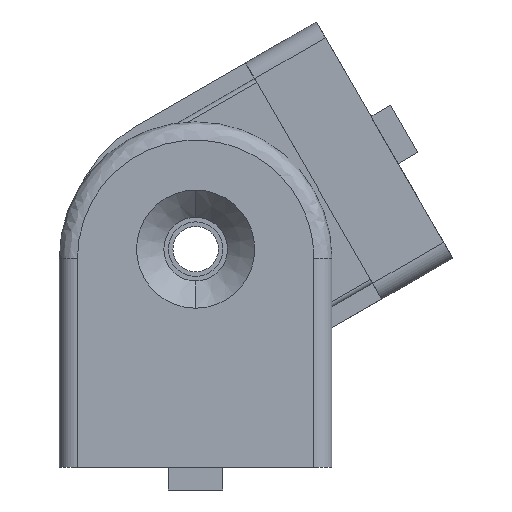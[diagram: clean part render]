
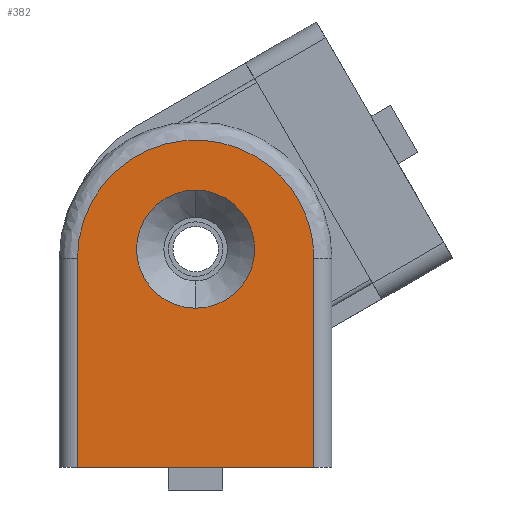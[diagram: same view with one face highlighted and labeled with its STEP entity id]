
A CAD part, left-side view. The second image highlights one B-rep face of the part: STEP entity #382.
In plain terms, the highlighted planar face has unit normal (-1, 0, 0).
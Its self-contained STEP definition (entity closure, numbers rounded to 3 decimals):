
#97 = EDGE_CURVE ( 'NONE', #2547, #2420, #666, .T. ) ;
#98 = EDGE_CURVE ( 'NONE', #579, #2553, #661, .T. ) ;
#99 = EDGE_CURVE ( 'NONE', #2553, #492, #1532, .T. ) ;
#100 = EDGE_CURVE ( 'NONE', #492, #490, #756, .T. ) ;
#102 = EDGE_CURVE ( 'NONE', #579, #490, #764, .T. ) ;
#382 = ADVANCED_FACE ( 'NONE', ( #886, #893 ), #1207, .T. ) ;
#490 = VERTEX_POINT ( 'NONE', #1705 ) ;
#492 = VERTEX_POINT ( 'NONE', #1860 ) ;
#579 = VERTEX_POINT ( 'NONE', #1947 ) ;
#661 = LINE ( 'NONE', #1195, #757 ) ;
#666 = CIRCLE ( 'NONE', #1702, 6.5 ) ;
#733 = CIRCLE ( 'NONE', #2698, 6.5 ) ;
#756 = LINE ( 'NONE', #1115, #758 ) ;
#757 = VECTOR ( 'NONE', #1220, 1000. ) ;
#758 = VECTOR ( 'NONE', #1082, 1000. ) ;
#761 = VECTOR ( 'NONE', #1451, 1000. ) ;
#764 = LINE ( 'NONE', #1435, #761 ) ;
#886 = FACE_BOUND ( 'NONE', #2617, .T. ) ;
#893 = FACE_OUTER_BOUND ( 'NONE', #2558, .T. ) ;
#1082 = DIRECTION ( 'NONE',  ( 0., 0., -1. ) ) ;
#1115 = CARTESIAN_POINT ( 'NONE',  ( -15., -13., 0. ) ) ;
#1124 = CARTESIAN_POINT ( 'NONE',  ( -15., 13., 23. ) ) ;
#1134 = CARTESIAN_POINT ( 'NONE',  ( -15., -13., 23. ) ) ;
#1164 = CARTESIAN_POINT ( 'NONE',  ( -15., 13., 0. ) ) ;
#1191 = CARTESIAN_POINT ( 'NONE',  ( -15., 0., 24. ) ) ;
#1195 = CARTESIAN_POINT ( 'NONE',  ( -15., 13., 0. ) ) ;
#1204 = CARTESIAN_POINT ( 'NONE',  ( -15., 13., 49. ) ) ;
#1207 = PLANE ( 'NONE',  #2694 ) ;
#1208 = CARTESIAN_POINT ( 'NONE',  ( -15., -13., 49. ) ) ;
#1220 = DIRECTION ( 'NONE',  ( 0., 0., 1. ) ) ;
#1224 = DIRECTION ( 'NONE',  ( 0., 0., -1. ) ) ;
#1229 = DIRECTION ( 'NONE',  ( 1., 0., 0. ) ) ;
#1254 = DIRECTION ( 'NONE',  ( -1., 0., 0. ) ) ;
#1262 = DIRECTION ( 'NONE',  ( 0., 0., 1. ) ) ;
#1435 = CARTESIAN_POINT ( 'NONE',  ( -15., 0., 0. ) ) ;
#1451 = DIRECTION ( 'NONE',  ( 0., -1., 0. ) ) ;
#1532 =( BOUNDED_CURVE ( )  B_SPLINE_CURVE ( 3, ( #1124, #1204, #1208, #1134 ),
 .UNSPECIFIED., .F., .T. ) 
 B_SPLINE_CURVE_WITH_KNOTS ( ( 4, 4 ),
 ( 0., 1. ),
 .UNSPECIFIED. ) 
 CURVE ( )  GEOMETRIC_REPRESENTATION_ITEM ( )  RATIONAL_B_SPLINE_CURVE ( ( 1., 0.333, 0.333, 1. ) ) 
 REPRESENTATION_ITEM ( '' )  );
#1557 = EDGE_CURVE ( 'NONE', #2420, #2547, #733, .T. ) ;
#1702 = AXIS2_PLACEMENT_3D ( 'NONE', #1191, #1229, #1224 ) ;
#1705 = CARTESIAN_POINT ( 'NONE',  ( -15., -13., 0. ) ) ;
#1742 = CARTESIAN_POINT ( 'NONE',  ( -15., 13., 23. ) ) ;
#1748 = CARTESIAN_POINT ( 'NONE',  ( -15., 0., 17.5 ) ) ;
#1753 = CARTESIAN_POINT ( 'NONE',  ( -15., 0., 30.5 ) ) ;
#1860 = CARTESIAN_POINT ( 'NONE',  ( -15., -13., 23. ) ) ;
#1916 = DIRECTION ( 'NONE',  ( 1., 0., 0. ) ) ;
#1947 = CARTESIAN_POINT ( 'NONE',  ( -15., 13., 0. ) ) ;
#1966 = CARTESIAN_POINT ( 'NONE',  ( -15., 0., 24. ) ) ;
#1969 = DIRECTION ( 'NONE',  ( 0., 0., -1. ) ) ;
#2196 = ORIENTED_EDGE ( 'NONE', *, *, #100, .F. ) ;
#2240 = ORIENTED_EDGE ( 'NONE', *, *, #98, .F. ) ;
#2344 = ORIENTED_EDGE ( 'NONE', *, *, #97, .T. ) ;
#2400 = ORIENTED_EDGE ( 'NONE', *, *, #1557, .T. ) ;
#2420 = VERTEX_POINT ( 'NONE', #1753 ) ;
#2457 = ORIENTED_EDGE ( 'NONE', *, *, #102, .T. ) ;
#2547 = VERTEX_POINT ( 'NONE', #1748 ) ;
#2553 = VERTEX_POINT ( 'NONE', #1742 ) ;
#2558 = EDGE_LOOP ( 'NONE', ( #2196, #2561, #2240, #2457 ) ) ;
#2561 = ORIENTED_EDGE ( 'NONE', *, *, #99, .F. ) ;
#2617 = EDGE_LOOP ( 'NONE', ( #2344, #2400 ) ) ;
#2694 = AXIS2_PLACEMENT_3D ( 'NONE', #1164, #1254, #1262 ) ;
#2698 = AXIS2_PLACEMENT_3D ( 'NONE', #1966, #1916, #1969 ) ;
